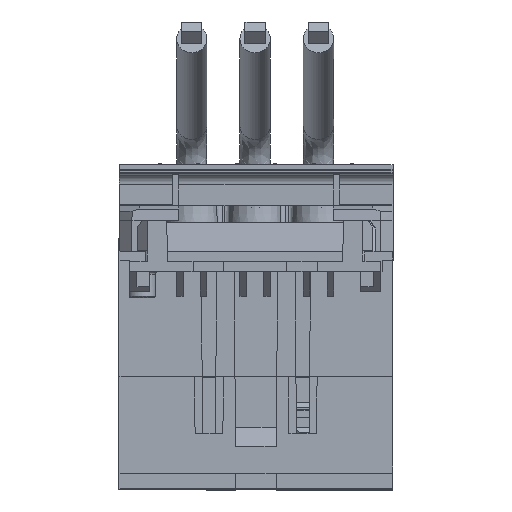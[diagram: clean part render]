
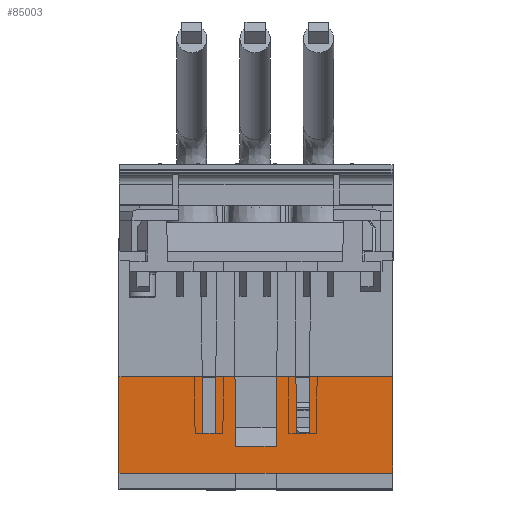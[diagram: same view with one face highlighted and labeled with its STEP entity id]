
A CAD part, top view. The second image highlights one B-rep face of the part: STEP entity #85003.
In plain terms, the highlighted planar face has unit normal (0, -0.009, 1).
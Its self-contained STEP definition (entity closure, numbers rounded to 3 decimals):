
#1556 = VERTEX_POINT ( 'NONE', #29630 ) ;
#2090 = VECTOR ( 'NONE', #29845, 1000. ) ;
#3161 = EDGE_CURVE ( 'NONE', #82125, #35056, #77794, .T. ) ;
#3585 = VECTOR ( 'NONE', #49884, 1000. ) ;
#4001 = ORIENTED_EDGE ( 'NONE', *, *, #32852, .T. ) ;
#4505 = CARTESIAN_POINT ( 'NONE',  ( 4.122, -4.5, 199.999 ) ) ;
#4733 = CARTESIAN_POINT ( 'NONE',  ( 10.598, -4.5, 199.999 ) ) ;
#4821 = CARTESIAN_POINT ( 'NONE',  ( -27., -4.5, 200. ) ) ;
#5277 = DIRECTION ( 'NONE',  ( -0.009, 1., 0.009 ) ) ;
#6511 = ORIENTED_EDGE ( 'NONE', *, *, #39445, .T. ) ;
#7986 = CARTESIAN_POINT ( 'NONE',  ( -10.598, -4.5, 199.999 ) ) ;
#9508 = VERTEX_POINT ( 'NONE', #31393 ) ;
#10263 = VECTOR ( 'NONE', #54357, 1000. ) ;
#10538 = EDGE_CURVE ( 'NONE', #65935, #28942, #61843, .T. ) ;
#10622 = EDGE_CURVE ( 'NONE', #9508, #81705, #51024, .T. ) ;
#11395 = DIRECTION ( 'NONE',  ( 0., -0.009, 1. ) ) ;
#11667 = CARTESIAN_POINT ( 'NONE',  ( -10.5, -15.7, 199.902 ) ) ;
#12662 = EDGE_CURVE ( 'NONE', #25330, #35056, #48418, .T. ) ;
#13129 = DIRECTION ( 'NONE',  ( 0., -1., -0.009 ) ) ;
#13307 = CARTESIAN_POINT ( 'NONE',  ( 4.003, -18.18, 199.88 ) ) ;
#13663 = CARTESIAN_POINT ( 'NONE',  ( -4.003, -18.18, 199.88 ) ) ;
#14413 = PLANE ( 'NONE',  #71852 ) ;
#14966 = CARTESIAN_POINT ( 'NONE',  ( -10.5, -15.7, 199.902 ) ) ;
#16446 = EDGE_CURVE ( 'NONE', #82125, #9508, #47061, .T. ) ;
#16969 = VECTOR ( 'NONE', #32642, 1000. ) ;
#17678 = CARTESIAN_POINT ( 'NONE',  ( 7.902, -4.5, 199.999 ) ) ;
#18298 = EDGE_CURVE ( 'NONE', #76782, #45142, #68260, .T. ) ;
#18884 = EDGE_CURVE ( 'NONE', #44757, #65935, #85455, .T. ) ;
#19755 = CARTESIAN_POINT ( 'NONE',  ( -27., -4.5, 199.999 ) ) ;
#20268 = DIRECTION ( 'NONE',  ( 1., 0., 0. ) ) ;
#21072 = VECTOR ( 'NONE', #40047, 1000. ) ;
#21285 = VECTOR ( 'NONE', #51564, 1000. ) ;
#21388 = CARTESIAN_POINT ( 'NONE',  ( 228.718, -4.5, 199.999 ) ) ;
#22211 = LINE ( 'NONE', #74558, #54523 ) ;
#22253 = ORIENTED_EDGE ( 'NONE', *, *, #55295, .T. ) ;
#22425 = EDGE_CURVE ( 'NONE', #81705, #29249, #48718, .T. ) ;
#23515 = LINE ( 'NONE', #57518, #2090 ) ;
#25326 = VECTOR ( 'NONE', #61910, 1000. ) ;
#25330 = VERTEX_POINT ( 'NONE', #28420 ) ;
#25860 = DIRECTION ( 'NONE',  ( 1., 0., 0. ) ) ;
#25887 = LINE ( 'NONE', #81637, #30171 ) ;
#26611 = CARTESIAN_POINT ( 'NONE',  ( -7.902, -4.5, 199.999 ) ) ;
#27438 = EDGE_CURVE ( 'NONE', #76782, #29249, #22211, .T. ) ;
#27908 = LINE ( 'NONE', #4505, #67667 ) ;
#28420 = CARTESIAN_POINT ( 'NONE',  ( -4.003, -18.18, 199.88 ) ) ;
#28942 = VERTEX_POINT ( 'NONE', #37814 ) ;
#29249 = VERTEX_POINT ( 'NONE', #7986 ) ;
#29284 = EDGE_LOOP ( 'NONE', ( #46655, #50385, #55111, #67453, #71636, #31610, #57432, #49608, #43076, #4001, #22253, #50335, #31663, #30175, #6511, #29853, #51206, #37867 ) ) ;
#29630 = CARTESIAN_POINT ( 'NONE',  ( 4.122, -4.5, 199.999 ) ) ;
#29845 = DIRECTION ( 'NONE',  ( 1., 0., 0. ) ) ;
#29853 = ORIENTED_EDGE ( 'NONE', *, *, #12662, .T. ) ;
#30171 = VECTOR ( 'NONE', #66903, 1000. ) ;
#30175 = ORIENTED_EDGE ( 'NONE', *, *, #55910, .T. ) ;
#30293 = CARTESIAN_POINT ( 'NONE',  ( 8., -15.7, 199.902 ) ) ;
#31393 = CARTESIAN_POINT ( 'NONE',  ( -8., -15.7, 199.902 ) ) ;
#31610 = ORIENTED_EDGE ( 'NONE', *, *, #67525, .T. ) ;
#31663 = ORIENTED_EDGE ( 'NONE', *, *, #74133, .F. ) ;
#32504 = DIRECTION ( 'NONE',  ( -1., 0., 0. ) ) ;
#32642 = DIRECTION ( 'NONE',  ( -0.009, -1., -0.009 ) ) ;
#32852 = EDGE_CURVE ( 'NONE', #73592, #44906, #25887, .T. ) ;
#35056 = VERTEX_POINT ( 'NONE', #85531 ) ;
#36404 = VERTEX_POINT ( 'NONE', #17678 ) ;
#37814 = CARTESIAN_POINT ( 'NONE',  ( 27., -4.5, 200. ) ) ;
#37867 = ORIENTED_EDGE ( 'NONE', *, *, #16446, .T. ) ;
#38642 = VERTEX_POINT ( 'NONE', #53590 ) ;
#39187 = CARTESIAN_POINT ( 'NONE',  ( -7.902, -4.5, 199.999 ) ) ;
#39445 = EDGE_CURVE ( 'NONE', #70492, #25330, #39629, .T. ) ;
#39629 = LINE ( 'NONE', #77385, #21285 ) ;
#40012 = CARTESIAN_POINT ( 'NONE',  ( 27., 18.5, 200.2 ) ) ;
#40047 = DIRECTION ( 'NONE',  ( 1., 0., 0. ) ) ;
#40917 = FACE_OUTER_BOUND ( 'NONE', #29284, .T. ) ;
#43076 = ORIENTED_EDGE ( 'NONE', *, *, #56547, .F. ) ;
#43233 = CARTESIAN_POINT ( 'NONE',  ( -26., 18.5, 200.2 ) ) ;
#44757 = VERTEX_POINT ( 'NONE', #62204 ) ;
#44906 = VERTEX_POINT ( 'NONE', #84774 ) ;
#45142 = VERTEX_POINT ( 'NONE', #53188 ) ;
#46655 = ORIENTED_EDGE ( 'NONE', *, *, #10622, .T. ) ;
#47061 = LINE ( 'NONE', #26611, #16969 ) ;
#47962 = CARTESIAN_POINT ( 'NONE',  ( -26., -23.5, 199.833 ) ) ;
#48112 = DIRECTION ( 'NONE',  ( -1., 0., 0. ) ) ;
#48418 = LINE ( 'NONE', #13663, #59215 ) ;
#48718 = LINE ( 'NONE', #14966, #56191 ) ;
#49608 = ORIENTED_EDGE ( 'NONE', *, *, #10538, .T. ) ;
#49884 = DIRECTION ( 'NONE',  ( 1., 0., 0. ) ) ;
#50335 = ORIENTED_EDGE ( 'NONE', *, *, #84200, .T. ) ;
#50385 = ORIENTED_EDGE ( 'NONE', *, *, #22425, .T. ) ;
#50772 = DIRECTION ( 'NONE',  ( -0.009, 1., 0.009 ) ) ;
#51024 = LINE ( 'NONE', #67352, #78010 ) ;
#51206 = ORIENTED_EDGE ( 'NONE', *, *, #3161, .F. ) ;
#51564 = DIRECTION ( 'NONE',  ( -1., 0., 0. ) ) ;
#53188 = CARTESIAN_POINT ( 'NONE',  ( -27., -23.5, 199.833 ) ) ;
#53590 = CARTESIAN_POINT ( 'NONE',  ( 8., -15.7, 199.902 ) ) ;
#53829 = CARTESIAN_POINT ( 'NONE',  ( -26., -15.7, 199.902 ) ) ;
#54357 = DIRECTION ( 'NONE',  ( 0., -1., -0.009 ) ) ;
#54523 = VECTOR ( 'NONE', #25860, 1000. ) ;
#55111 = ORIENTED_EDGE ( 'NONE', *, *, #27438, .F. ) ;
#55295 = EDGE_CURVE ( 'NONE', #44906, #38642, #58119, .T. ) ;
#55724 = CARTESIAN_POINT ( 'NONE',  ( -26., -23.5, 199.833 ) ) ;
#55910 = EDGE_CURVE ( 'NONE', #1556, #70492, #27908, .T. ) ;
#55932 = VECTOR ( 'NONE', #32504, 1000. ) ;
#55964 = DIRECTION ( 'NONE',  ( 1., 0., 0. ) ) ;
#56191 = VECTOR ( 'NONE', #82653, 1000. ) ;
#56547 = EDGE_CURVE ( 'NONE', #73592, #28942, #23515, .T. ) ;
#57432 = ORIENTED_EDGE ( 'NONE', *, *, #18884, .T. ) ;
#57518 = CARTESIAN_POINT ( 'NONE',  ( 228.718, -4.5, 199.999 ) ) ;
#57688 = LINE ( 'NONE', #68554, #21072 ) ;
#58119 = LINE ( 'NONE', #53829, #55932 ) ;
#59215 = VECTOR ( 'NONE', #5277, 1000. ) ;
#61409 = VECTOR ( 'NONE', #50772, 1000. ) ;
#61843 = LINE ( 'NONE', #40012, #25326 ) ;
#61910 = DIRECTION ( 'NONE',  ( 0., 1., 0.009 ) ) ;
#62204 = CARTESIAN_POINT ( 'NONE',  ( 4., -23.5, 199.833 ) ) ;
#63498 = DIRECTION ( 'NONE',  ( 1., 0., 0. ) ) ;
#65899 = LINE ( 'NONE', #21388, #77722 ) ;
#65935 = VERTEX_POINT ( 'NONE', #66018 ) ;
#66018 = CARTESIAN_POINT ( 'NONE',  ( 27., -23.5, 199.833 ) ) ;
#66149 = LINE ( 'NONE', #47962, #88758 ) ;
#66561 = EDGE_CURVE ( 'NONE', #45142, #70886, #57688, .T. ) ;
#66903 = DIRECTION ( 'NONE',  ( -0.009, -1., -0.009 ) ) ;
#67352 = CARTESIAN_POINT ( 'NONE',  ( -26., -15.7, 199.902 ) ) ;
#67453 = ORIENTED_EDGE ( 'NONE', *, *, #18298, .T. ) ;
#67519 = DIRECTION ( 'NONE',  ( -0.009, -1., -0.009 ) ) ;
#67525 = EDGE_CURVE ( 'NONE', #70886, #44757, #66149, .T. ) ;
#67667 = VECTOR ( 'NONE', #67519, 1000. ) ;
#68260 = LINE ( 'NONE', #19755, #10263 ) ;
#68554 = CARTESIAN_POINT ( 'NONE',  ( 4., -23.5, 199.833 ) ) ;
#70492 = VERTEX_POINT ( 'NONE', #13307 ) ;
#70886 = VERTEX_POINT ( 'NONE', #88057 ) ;
#71636 = ORIENTED_EDGE ( 'NONE', *, *, #66561, .T. ) ;
#71852 = AXIS2_PLACEMENT_3D ( 'NONE', #43233, #11395, #13129 ) ;
#73592 = VERTEX_POINT ( 'NONE', #4733 ) ;
#74133 = EDGE_CURVE ( 'NONE', #1556, #36404, #65899, .T. ) ;
#74558 = CARTESIAN_POINT ( 'NONE',  ( 228.718, -4.5, 199.999 ) ) ;
#75759 = VECTOR ( 'NONE', #63498, 1000. ) ;
#76782 = VERTEX_POINT ( 'NONE', #4821 ) ;
#77385 = CARTESIAN_POINT ( 'NONE',  ( -26., -18.18, 199.88 ) ) ;
#77531 = CARTESIAN_POINT ( 'NONE',  ( 228.718, -4.5, 199.999 ) ) ;
#77722 = VECTOR ( 'NONE', #55964, 1000. ) ;
#77794 = LINE ( 'NONE', #77531, #3585 ) ;
#78010 = VECTOR ( 'NONE', #48112, 1000. ) ;
#78623 = LINE ( 'NONE', #30293, #61409 ) ;
#81637 = CARTESIAN_POINT ( 'NONE',  ( 10.598, -4.5, 199.999 ) ) ;
#81705 = VERTEX_POINT ( 'NONE', #11667 ) ;
#82125 = VERTEX_POINT ( 'NONE', #39187 ) ;
#82653 = DIRECTION ( 'NONE',  ( -0.009, 1., 0.009 ) ) ;
#84200 = EDGE_CURVE ( 'NONE', #38642, #36404, #78623, .T. ) ;
#84774 = CARTESIAN_POINT ( 'NONE',  ( 10.5, -15.7, 199.902 ) ) ;
#85003 = ADVANCED_FACE ( 'NONE', ( #40917 ), #14413, .T. ) ;
#85455 = LINE ( 'NONE', #55724, #75759 ) ;
#85531 = CARTESIAN_POINT ( 'NONE',  ( -4.122, -4.5, 199.999 ) ) ;
#88057 = CARTESIAN_POINT ( 'NONE',  ( -4., -23.5, 199.833 ) ) ;
#88758 = VECTOR ( 'NONE', #20268, 1000. ) ;
